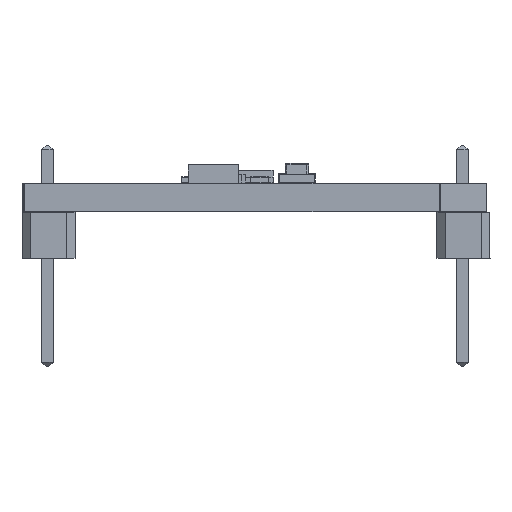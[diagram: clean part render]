
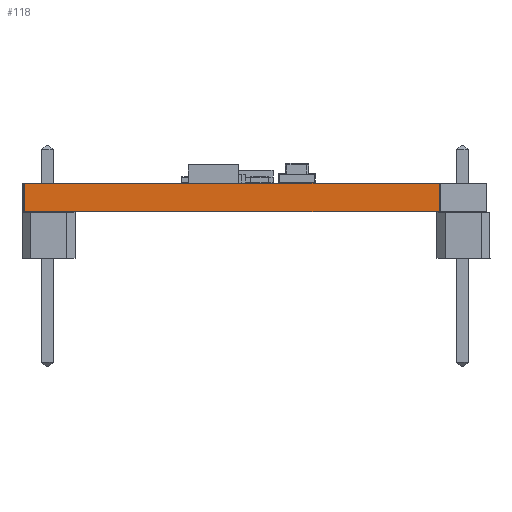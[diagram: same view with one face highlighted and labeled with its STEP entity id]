
A CAD part, front view. The second image highlights one B-rep face of the part: STEP entity #118.
In plain terms, the highlighted planar face has unit normal (0, -1, 0).
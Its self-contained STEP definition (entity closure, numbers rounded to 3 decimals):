
#80 = EDGE_CURVE('',#81,#83,#85,.T.);
#81 = VERTEX_POINT('',#82);
#82 = CARTESIAN_POINT('',(-1.269,-3.887,-1.59));
#83 = VERTEX_POINT('',#84);
#84 = CARTESIAN_POINT('',(-1.269,-3.887,0.));
#85 = LINE('',#86,#87);
#86 = CARTESIAN_POINT('',(-1.269,-3.887,-1.59));
#87 = VECTOR('',#88,1.);
#88 = DIRECTION('',(0.,0.,1.));
#118 = ADVANCED_FACE('',(#119),#144,.T.);
#119 = FACE_BOUND('',#120,.T.);
#120 = EDGE_LOOP('',(#121,#131,#137,#138));
#121 = ORIENTED_EDGE('',*,*,#122,.T.);
#122 = EDGE_CURVE('',#123,#125,#127,.T.);
#123 = VERTEX_POINT('',#124);
#124 = CARTESIAN_POINT('',(21.59,-3.887,-1.59));
#125 = VERTEX_POINT('',#126);
#126 = CARTESIAN_POINT('',(21.59,-3.887,0.));
#127 = LINE('',#128,#129);
#128 = CARTESIAN_POINT('',(21.59,-3.887,-1.59));
#129 = VECTOR('',#130,1.);
#130 = DIRECTION('',(0.,0.,1.));
#131 = ORIENTED_EDGE('',*,*,#132,.T.);
#132 = EDGE_CURVE('',#125,#83,#133,.T.);
#133 = LINE('',#134,#135);
#134 = CARTESIAN_POINT('',(21.59,-3.887,0.));
#135 = VECTOR('',#136,1.);
#136 = DIRECTION('',(-1.,0.,0.));
#137 = ORIENTED_EDGE('',*,*,#80,.F.);
#138 = ORIENTED_EDGE('',*,*,#139,.F.);
#139 = EDGE_CURVE('',#123,#81,#140,.T.);
#140 = LINE('',#141,#142);
#141 = CARTESIAN_POINT('',(21.59,-3.887,-1.59));
#142 = VECTOR('',#143,1.);
#143 = DIRECTION('',(-1.,0.,0.));
#144 = PLANE('',#145);
#145 = AXIS2_PLACEMENT_3D('',#146,#147,#148);
#146 = CARTESIAN_POINT('',(21.59,-3.887,-1.59));
#147 = DIRECTION('',(0.,-1.,0.));
#148 = DIRECTION('',(-1.,0.,0.));
